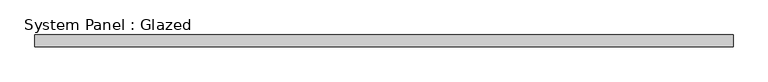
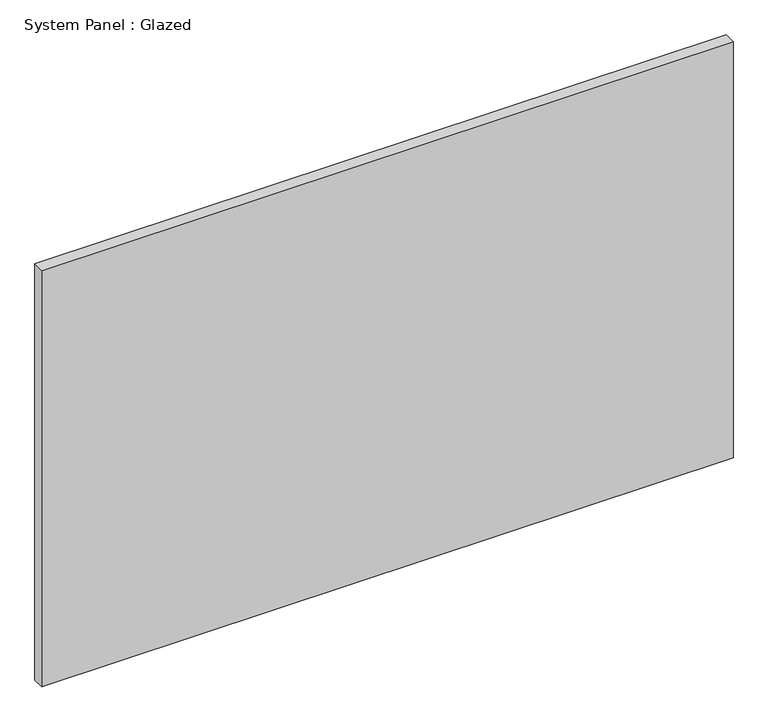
"""IFC4 building model written with IfcOpenShell, lengths in millimetres: plate geometry, System Panel : Glazed."""

from ifc_helpers import new_model, si_unit, origin, origin_with_axes, place, context, project, spatial, polyline, outline, extrude, source, transform, mapped, element, save


def system_panel_glazed_5551a58a(model_context):
    return source(origin(), model_context, "Body", "SweptSolid", [
        extrude(outline(polyline([(763.190625, 19.05), (-763.190625, 19.05), (-763.190625, 44.45), (763.190625, 44.45), (763.190625, 19.05)])), origin_with_axes(), (0.0, 0.0, 1.0), 971.55),
    ])


if __name__ == "__main__":
    model = new_model("IFC4")
    model_context = context("Model", 3, world=origin())
    ifc_project = project(units=[si_unit("LENGTHUNIT", "METRE", prefix="MILLI")], contexts=[model_context])
    site = spatial("IfcSite", under=ifc_project)
    building = spatial("IfcBuilding", under=site)
    placement = place(None, origin())
    system_panel_glazed_shape = system_panel_glazed_5551a58a(model_context)
    element("IfcPlate", 1, ObjectType="System Panel : Glazed", at=placement, inside=building, context=model_context, shape_type="MappedRepresentation", body=[
        mapped(system_panel_glazed_shape, transform((0.0, 0.0, 0.0), x_axis=(1.0, 0.0, 0.0), y_axis=(0.0, 1.0, 0.0), z_axis=(0.0, 0.0, 1.0))),
    ])
    save(model, "model.ifc")
